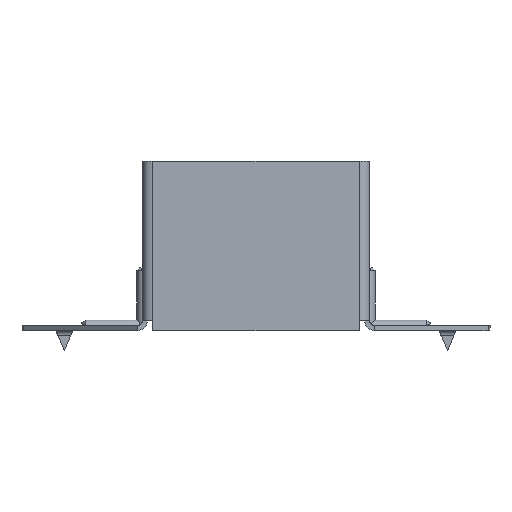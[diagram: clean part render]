
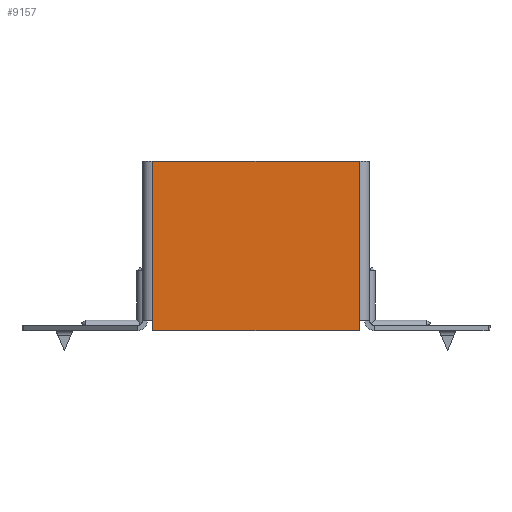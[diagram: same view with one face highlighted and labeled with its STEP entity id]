
A CAD part, front view. The second image highlights one B-rep face of the part: STEP entity #9157.
In plain terms, the highlighted planar face has unit normal (0, -1, 0).
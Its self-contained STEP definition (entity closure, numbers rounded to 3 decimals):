
#21 = VECTOR ( 'NONE', #6353, 1000. ) ;
#846 = CARTESIAN_POINT ( 'NONE',  ( -30.5, 0., 0. ) ) ;
#909 = VERTEX_POINT ( 'NONE', #12732 ) ;
#1137 = VECTOR ( 'NONE', #11741, 1000. ) ;
#1143 = CARTESIAN_POINT ( 'NONE',  ( 30.5, 0., -67. ) ) ;
#1291 = LINE ( 'NONE', #3066, #6366 ) ;
#1599 = DIRECTION ( 'NONE',  ( 0., 0., 1. ) ) ;
#1642 = CARTESIAN_POINT ( 'NONE',  ( -30.5, 0., 0. ) ) ;
#1744 = VECTOR ( 'NONE', #3944, 1000. ) ;
#1837 = VERTEX_POINT ( 'NONE', #11133 ) ;
#1927 = EDGE_LOOP ( 'NONE', ( #5029, #4374, #7473, #7366, #12428, #10804 ) ) ;
#2861 = VECTOR ( 'NONE', #4766, 1000. ) ;
#3066 = CARTESIAN_POINT ( 'NONE',  ( 0., 0., -20. ) ) ;
#3199 = DIRECTION ( 'NONE',  ( -1., 0., 0. ) ) ;
#3424 = EDGE_CURVE ( 'NONE', #909, #6286, #9537, .T. ) ;
#3918 = VERTEX_POINT ( 'NONE', #8461 ) ;
#3944 = DIRECTION ( 'NONE',  ( 0., 0., -1. ) ) ;
#4007 = LINE ( 'NONE', #5371, #21 ) ;
#4374 = ORIENTED_EDGE ( 'NONE', *, *, #11404, .T. ) ;
#4731 = CARTESIAN_POINT ( 'NONE',  ( 30.5, 0., -70. ) ) ;
#4766 = DIRECTION ( 'NONE',  ( 0., 0., -1. ) ) ;
#5029 = ORIENTED_EDGE ( 'NONE', *, *, #11514, .T. ) ;
#5371 = CARTESIAN_POINT ( 'NONE',  ( 30.5, 0., -70. ) ) ;
#5559 = LINE ( 'NONE', #1642, #2861 ) ;
#5595 = VECTOR ( 'NONE', #1599, 1000. ) ;
#6286 = VERTEX_POINT ( 'NONE', #6761 ) ;
#6353 = DIRECTION ( 'NONE',  ( 0., 0., 1. ) ) ;
#6366 = VECTOR ( 'NONE', #3199, 1000. ) ;
#6605 = EDGE_CURVE ( 'NONE', #909, #10756, #11160, .T. ) ;
#6761 = CARTESIAN_POINT ( 'NONE',  ( -30.5, 0., -70. ) ) ;
#7366 = ORIENTED_EDGE ( 'NONE', *, *, #3424, .F. ) ;
#7408 = VERTEX_POINT ( 'NONE', #9104 ) ;
#7473 = ORIENTED_EDGE ( 'NONE', *, *, #7600, .T. ) ;
#7600 = EDGE_CURVE ( 'NONE', #3918, #6286, #5559, .T. ) ;
#7809 = PLANE ( 'NONE',  #13140 ) ;
#8285 = FACE_OUTER_BOUND ( 'NONE', #1927, .T. ) ;
#8461 = CARTESIAN_POINT ( 'NONE',  ( -30.5, 0., -67. ) ) ;
#8849 = DIRECTION ( 'NONE',  ( 0., 0., 1. ) ) ;
#9104 = CARTESIAN_POINT ( 'NONE',  ( -30.5, 0., -20. ) ) ;
#9157 = ADVANCED_FACE ( 'NONE', ( #8285 ), #7809, .F. ) ;
#9537 = LINE ( 'NONE', #10740, #1137 ) ;
#9837 = CARTESIAN_POINT ( 'NONE',  ( 0., 0., 0. ) ) ;
#10057 = EDGE_CURVE ( 'NONE', #10756, #1837, #4007, .T. ) ;
#10740 = CARTESIAN_POINT ( 'NONE',  ( -32., 0., -70. ) ) ;
#10756 = VERTEX_POINT ( 'NONE', #1143 ) ;
#10791 = LINE ( 'NONE', #846, #1744 ) ;
#10804 = ORIENTED_EDGE ( 'NONE', *, *, #10057, .T. ) ;
#10863 = DIRECTION ( 'NONE',  ( 0., 1., 0. ) ) ;
#11133 = CARTESIAN_POINT ( 'NONE',  ( 30.5, 0., -20. ) ) ;
#11160 = LINE ( 'NONE', #4731, #5595 ) ;
#11404 = EDGE_CURVE ( 'NONE', #7408, #3918, #10791, .T. ) ;
#11514 = EDGE_CURVE ( 'NONE', #1837, #7408, #1291, .T. ) ;
#11741 = DIRECTION ( 'NONE',  ( -1., 0., 0. ) ) ;
#12428 = ORIENTED_EDGE ( 'NONE', *, *, #6605, .T. ) ;
#12732 = CARTESIAN_POINT ( 'NONE',  ( 30.5, 0., -70. ) ) ;
#13140 = AXIS2_PLACEMENT_3D ( 'NONE', #9837, #10863, #8849 ) ;
